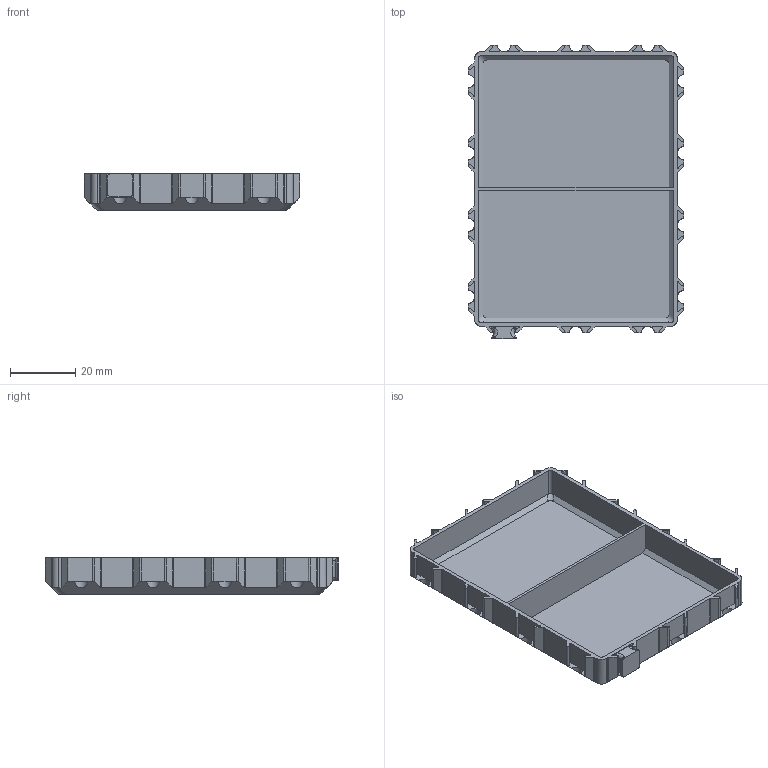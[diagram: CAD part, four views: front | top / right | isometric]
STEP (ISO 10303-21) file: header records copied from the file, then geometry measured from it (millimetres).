
FILE_DESCRIPTION(/* description */ (''),/* implementation_level */ '2;1');
FILE_NAME(/* name */ 'BOX_x03_y04_z010_tx0_ty1.stp',/* time_stamp */ '2024-02-16T08:36:52+01:00',/* author */ ('ott'),/* organization */ (''),/* preprocessor_version */ 'ST-DEVELOPER v19.2',/* originating_system */ 'Autodesk Inventor 2023',/* authorisation */ '');
FILE_SCHEMA (('AUTOMOTIVE_DESIGN { 1 0 10303 214 3 1 1 }'));
Length unit declared in the file: millimetre
Products named in the file (1): BOX_x03_y04_z010_tx0_ty1
Bounding box: 66 x 89.8 x 11.2 mm (x, y, z)
Volume: 10623.9 mm3; surface area: 18424.7 mm2
Topology: 2 solids, 2 shells, 270 faces, 764 edges, 500 vertices
Faces by surface type: plane 150, cylinder 116, torus 4
Entity records: 9191 total; most frequent: CARTESIAN_POINT 1623, DIRECTION 1572, ORIENTED_EDGE 1528, EDGE_CURVE 764, AXIS2_PLACEMENT_3D 545, VERTEX_POINT 500, LINE 482, VECTOR 482
